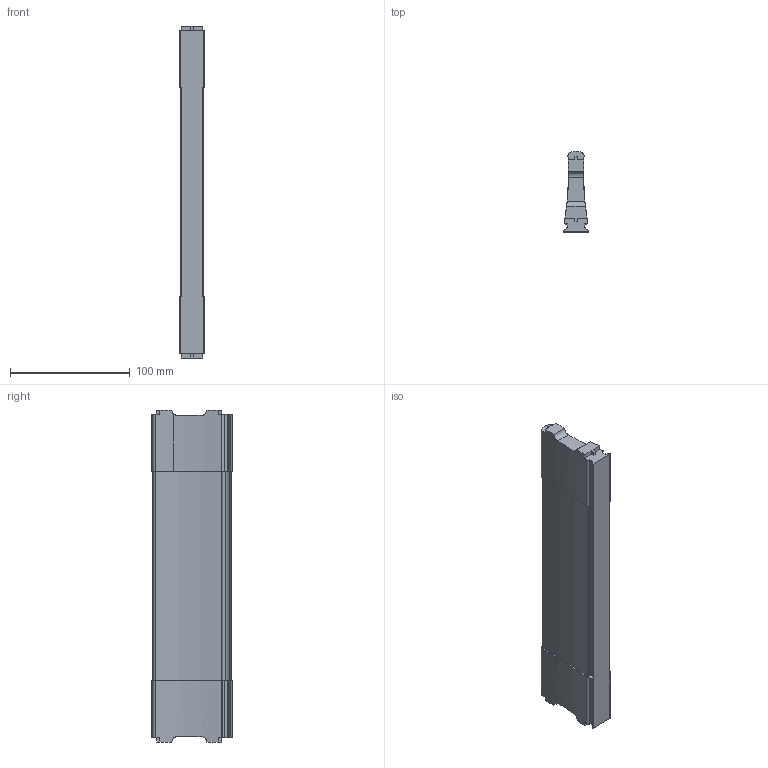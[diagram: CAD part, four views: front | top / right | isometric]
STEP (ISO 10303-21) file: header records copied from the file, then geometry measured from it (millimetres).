
FILE_DESCRIPTION (( 'STEP AP214' ), '1' );
FILE_NAME ('Traverse DWD NL300 Mass X268,4.step', '2010-09-21T13:16:34', ( 'grass' ), ( '' ), 'SwSTEP 2.0', 'SolidWorks 2010', '' );
FILE_SCHEMA (( 'AUTOMOTIVE_DESIGN' ));
Length unit declared in the file: millimetre
Products named in the file (1): Traverse DWD NL300 Mass X268,4
Bounding box: 21.4 x 67.5 x 277.4 mm (x, y, z)
Volume: 236185.7 mm3; surface area: 49223.2 mm2
Topology: 1 solids, 1 shells, 125 faces, 369 edges, 246 vertices
Faces by surface type: cylinder 68, plane 57
Entity records: 4377 total; most frequent: CARTESIAN_POINT 879, DIRECTION 753, ORIENTED_EDGE 738, EDGE_CURVE 369, AXIS2_PLACEMENT_3D 268, VERTEX_POINT 246, LINE 217, VECTOR 217
